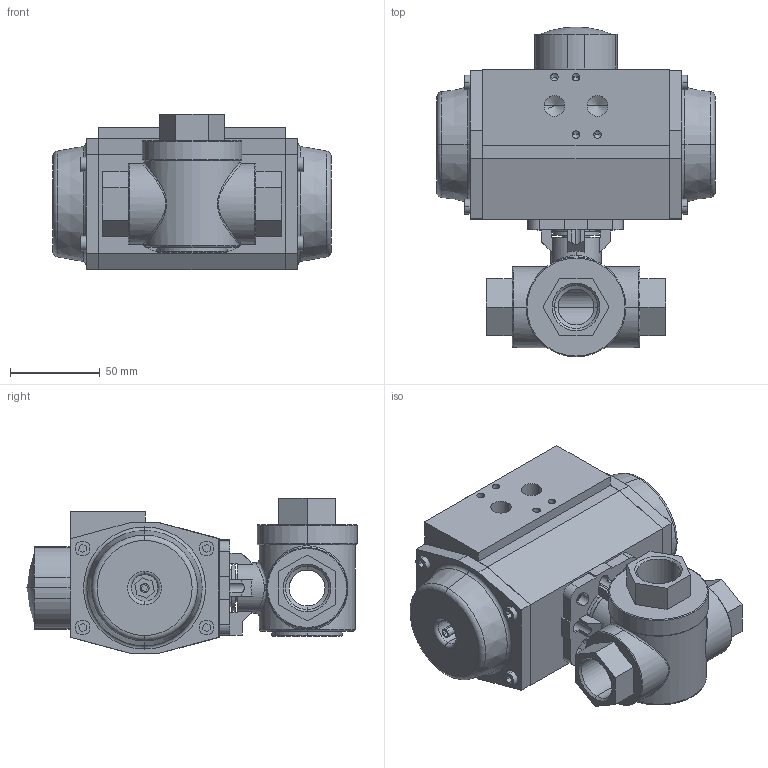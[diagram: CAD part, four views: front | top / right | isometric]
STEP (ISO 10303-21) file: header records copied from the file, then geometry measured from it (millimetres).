
FILE_DESCRIPTION (( 'STEP AP214' ), '1' );
FILE_NAME ('S57D DN20 G3_4 FB + AP2D T.STEP', '2021-04-01T13:56:56', ( '' ), ( '' ), 'SwSTEP 2.0', 'SolidWorks 2018', '' );
FILE_SCHEMA (( 'AUTOMOTIVE_DESIGN' ));
Length unit declared in the file: millimetre
Products named in the file (3): S57D DN20-G3_4 FB; S57D DN20 G3_4 FB + AP2D T; AP2 T_Default<As Machined>
Assembly tree (2 placements, depth 2):
  S57D DN20 G3_4 FB + AP2D T
    AP2 T_Default<As Machined>
    S57D DN20-G3_4 FB
Bounding box: 155 x 183.79 x 86.35 mm (x, y, z)
Volume: 1032608.9 mm3; surface area: 115835 mm2
Topology: 9 solids, 9 shells, 451 faces, 1139 edges, 719 vertices
Faces by surface type: plane 250, cylinder 119, cone 44, torus 26, bspline 10, sphere 2
Entity records: 16498 total; most frequent: CARTESIAN_POINT 4416, DIRECTION 2285, ORIENTED_EDGE 2222, EDGE_CURVE 1111, AXIS2_PLACEMENT_3D 771, LINE 743, VECTOR 743, VERTEX_POINT 719
